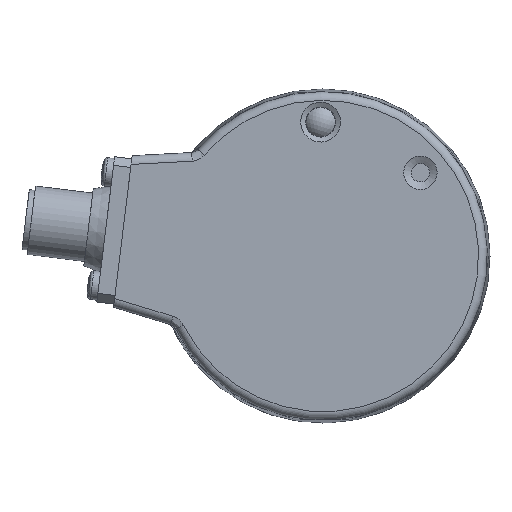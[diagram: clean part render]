
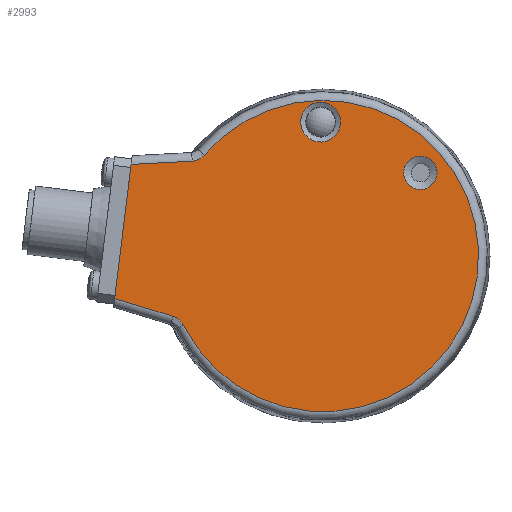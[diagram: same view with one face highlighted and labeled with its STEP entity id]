
A CAD part, left-side view. The second image highlights one B-rep face of the part: STEP entity #2993.
In plain terms, the highlighted planar face has unit normal (-1, 0, 0).
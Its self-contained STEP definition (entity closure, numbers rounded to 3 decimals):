
#28 = LINE ( 'NONE', #429, #6921 ) ;
#95 = CARTESIAN_POINT ( 'NONE',  ( -30.5, 22.708, 16.461 ) ) ;
#152 = EDGE_CURVE ( 'NONE', #5210, #5210, #3019, .T. ) ;
#166 = CARTESIAN_POINT ( 'NONE',  ( -30.5, 24.406, -11.656 ) ) ;
#390 = B_SPLINE_CURVE_WITH_KNOTS ( 'NONE', 3,
 ( #4580, #1142, #166, #5583, #1503, #3463, #6175, #6120, #941, #4244 ),
 .UNSPECIFIED., .F., .F.,
 ( 4, 2, 2, 2, 4 ),
 ( 0., 0.001, 0.001, 0.002, 0.002 ),
 .UNSPECIFIED. ) ;
#429 = CARTESIAN_POINT ( 'NONE',  ( -30.5, 36.354, -8.886 ) ) ;
#458 = CARTESIAN_POINT ( 'NONE',  ( -30.5, 20.859, 17.216 ) ) ;
#581 = CIRCLE ( 'NONE', #5055, 3.466 ) ;
#744 = DIRECTION ( 'NONE',  ( 1., 0., 0. ) ) ;
#901 = ORIENTED_EDGE ( 'NONE', *, *, #2748, .F. ) ;
#941 = CARTESIAN_POINT ( 'NONE',  ( -30.5, 25.819, -10.538 ) ) ;
#995 = CARTESIAN_POINT ( 'NONE',  ( -30.5, 36.168, -7.374 ) ) ;
#1004 = CARTESIAN_POINT ( 'NONE',  ( -30.5, 20.712, 17.356 ) ) ;
#1022 = CARTESIAN_POINT ( 'NONE',  ( -30.5, 26.015, -10.478 ) ) ;
#1142 = CARTESIAN_POINT ( 'NONE',  ( -30.5, 24.296, -11.83 ) ) ;
#1173 = FACE_BOUND ( 'NONE', #2132, .T. ) ;
#1198 = DIRECTION ( 'NONE',  ( -1., 0., 0. ) ) ;
#1212 = AXIS2_PLACEMENT_3D ( 'NONE', #1954, #5753, #2487 ) ;
#1503 = CARTESIAN_POINT ( 'NONE',  ( -30.5, 24.797, -11.19 ) ) ;
#1558 = CARTESIAN_POINT ( 'NONE',  ( -30.5, 20.579, 17.512 ) ) ;
#1641 = CARTESIAN_POINT ( 'NONE',  ( -30.5, -19.796, 14.097 ) ) ;
#1673 = VERTEX_POINT ( 'NONE', #1022 ) ;
#1690 = EDGE_CURVE ( 'NONE', #3291, #5771, #6134, .T. ) ;
#1750 = DIRECTION ( 'NONE',  ( 0., -0.993, -0.122 ) ) ;
#1765 = CARTESIAN_POINT ( 'NONE',  ( -30.5, 0.406, 23.246 ) ) ;
#1848 = ORIENTED_EDGE ( 'NONE', *, *, #1690, .T. ) ;
#1954 = CARTESIAN_POINT ( 'NONE',  ( -30.5, 0., 0. ) ) ;
#2058 = EDGE_LOOP ( 'NONE', ( #901, #1848, #4649, #2335, #5703, #6079 ) ) ;
#2069 = CARTESIAN_POINT ( 'NONE',  ( -30.5, 22.503, 16.471 ) ) ;
#2105 = EDGE_CURVE ( 'NONE', #2441, #1673, #2714, .T. ) ;
#2132 = EDGE_LOOP ( 'NONE', ( #4483 ) ) ;
#2202 = VECTOR ( 'NONE', #3255, 1000. ) ;
#2318 = DIRECTION ( 'NONE',  ( 0., -0.993, -0.122 ) ) ;
#2335 = ORIENTED_EDGE ( 'NONE', *, *, #2105, .T. ) ;
#2441 = VERTEX_POINT ( 'NONE', #995 ) ;
#2487 = DIRECTION ( 'NONE',  ( 0., -0.993, -0.122 ) ) ;
#2576 = DIRECTION ( 'NONE',  ( 0., -0.122, 0.993 ) ) ;
#2609 = CARTESIAN_POINT ( 'NONE',  ( -30.5, 22.299, 16.503 ) ) ;
#2714 = LINE ( 'NONE', #6536, #2202 ) ;
#2748 = EDGE_CURVE ( 'NONE', #3291, #6181, #5935, .T. ) ;
#2774 = AXIS2_PLACEMENT_3D ( 'NONE', #4557, #744, #4004 ) ;
#2968 = ORIENTED_EDGE ( 'NONE', *, *, #4627, .T. ) ;
#2991 = VERTEX_POINT ( 'NONE', #4103 ) ;
#2993 = ADVANCED_FACE ( 'NONE', ( #4672, #1173, #4088 ), #4605, .F. ) ;
#3019 = CIRCLE ( 'NONE', #2774, 2.899 ) ;
#3255 = DIRECTION ( 'NONE',  ( 0., -0.956, -0.292 ) ) ;
#3291 = VERTEX_POINT ( 'NONE', #95 ) ;
#3463 = CARTESIAN_POINT ( 'NONE',  ( -30.5, 25.107, -10.927 ) ) ;
#3495 = VECTOR ( 'NONE', #5404, 1000. ) ;
#3602 = EDGE_CURVE ( 'NONE', #2991, #6181, #5301, .T. ) ;
#3748 = EDGE_CURVE ( 'NONE', #2441, #5771, #28, .T. ) ;
#3940 = CARTESIAN_POINT ( 'NONE',  ( -30.5, 20.579, 17.512 ) ) ;
#4004 = DIRECTION ( 'NONE',  ( 0., -0.993, -0.122 ) ) ;
#4088 = FACE_OUTER_BOUND ( 'NONE', #2058, .T. ) ;
#4103 = CARTESIAN_POINT ( 'NONE',  ( -30.5, 24.205, -12.014 ) ) ;
#4244 = CARTESIAN_POINT ( 'NONE',  ( -30.5, 26.015, -10.478 ) ) ;
#4467 = VERTEX_POINT ( 'NONE', #4586 ) ;
#4471 = CARTESIAN_POINT ( 'NONE',  ( -30.5, 0., 0. ) ) ;
#4483 = ORIENTED_EDGE ( 'NONE', *, *, #152, .T. ) ;
#4557 = CARTESIAN_POINT ( 'NONE',  ( -30.5, -16.919, 14.45 ) ) ;
#4580 = CARTESIAN_POINT ( 'NONE',  ( -30.5, 24.205, -12.014 ) ) ;
#4586 = CARTESIAN_POINT ( 'NONE',  ( -30.5, -3.034, 22.824 ) ) ;
#4605 = PLANE ( 'NONE',  #1212 ) ;
#4627 = EDGE_CURVE ( 'NONE', #4467, #4467, #581, .T. ) ;
#4649 = ORIENTED_EDGE ( 'NONE', *, *, #3748, .F. ) ;
#4672 = FACE_BOUND ( 'NONE', #6795, .T. ) ;
#4804 = CARTESIAN_POINT ( 'NONE',  ( -30.5, 22.708, 16.461 ) ) ;
#5055 = AXIS2_PLACEMENT_3D ( 'NONE', #1765, #6123, #2318 ) ;
#5210 = VERTEX_POINT ( 'NONE', #1641 ) ;
#5301 = CIRCLE ( 'NONE', #5776, 27.022 ) ;
#5337 = CARTESIAN_POINT ( 'NONE',  ( -30.5, 21.906, 16.606 ) ) ;
#5383 = CARTESIAN_POINT ( 'NONE',  ( -30.5, 33.31, 15.905 ) ) ;
#5404 = DIRECTION ( 'NONE',  ( 0., 0.999, -0.052 ) ) ;
#5583 = CARTESIAN_POINT ( 'NONE',  ( -30.5, 24.657, -11.336 ) ) ;
#5703 = ORIENTED_EDGE ( 'NONE', *, *, #6580, .F. ) ;
#5753 = DIRECTION ( 'NONE',  ( 1., 0., 0. ) ) ;
#5771 = VERTEX_POINT ( 'NONE', #5383 ) ;
#5776 = AXIS2_PLACEMENT_3D ( 'NONE', #4471, #1198, #1750 ) ;
#5887 = CARTESIAN_POINT ( 'NONE',  ( -30.5, 21.716, 16.677 ) ) ;
#5935 = B_SPLINE_CURVE_WITH_KNOTS ( 'NONE', 3,
 ( #4804, #2069, #2609, #5337, #5887, #6446, #6982, #458, #1004, #1558 ),
 .UNSPECIFIED., .F., .F.,
 ( 4, 2, 2, 2, 4 ),
 ( 0., 0.001, 0.001, 0.002, 0.002 ),
 .UNSPECIFIED. ) ;
#6079 = ORIENTED_EDGE ( 'NONE', *, *, #3602, .T. ) ;
#6120 = CARTESIAN_POINT ( 'NONE',  ( -30.5, 25.632, -10.617 ) ) ;
#6123 = DIRECTION ( 'NONE',  ( 1., 0., 0. ) ) ;
#6134 = LINE ( 'NONE', #6492, #3495 ) ;
#6175 = CARTESIAN_POINT ( 'NONE',  ( -30.5, 25.277, -10.811 ) ) ;
#6181 = VERTEX_POINT ( 'NONE', #3940 ) ;
#6446 = CARTESIAN_POINT ( 'NONE',  ( -30.5, 21.352, 16.857 ) ) ;
#6492 = CARTESIAN_POINT ( 'NONE',  ( -30.5, 33.046, 15.919 ) ) ;
#6536 = CARTESIAN_POINT ( 'NONE',  ( -30.5, 25.362, -10.678 ) ) ;
#6580 = EDGE_CURVE ( 'NONE', #2991, #1673, #390, .T. ) ;
#6795 = EDGE_LOOP ( 'NONE', ( #2968 ) ) ;
#6921 = VECTOR ( 'NONE', #2576, 1000. ) ;
#6982 = CARTESIAN_POINT ( 'NONE',  ( -30.5, 21.178, 16.967 ) ) ;
